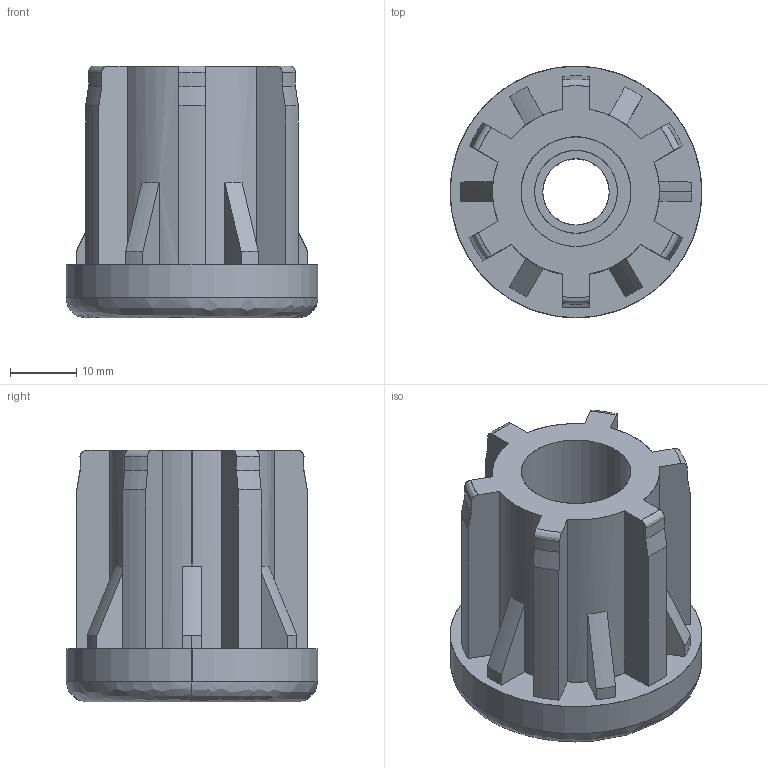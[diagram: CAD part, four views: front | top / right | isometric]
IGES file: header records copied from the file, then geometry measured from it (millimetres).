
Start section: SolidWorks IGES file using analytic representation for surfaces
Global section: file name: Y:\Tecnodin, S.L\PLAPP-Dirección - Documentos\General\Models CAD\Actiby\42006438210.IGS; native system: SolidWorks 2018; preprocessor: SolidWorks 2018; author: GerPro; date: 200225.181151; units: millimetre
Bounding box: 38 x 38 x 38 mm (x, y, z)
Surface area: 10145.4 mm2 (no closed solid volume)
Topology: 0 solids, 0 shells, 94 faces, 1059 edges, 1059 vertices
Faces by surface type: revolution 55, bspline 39
